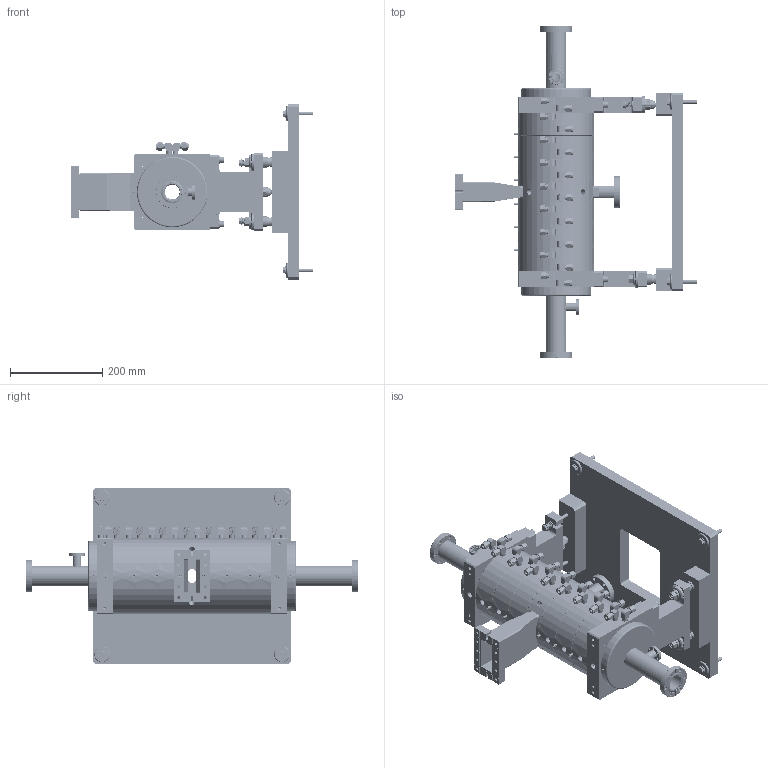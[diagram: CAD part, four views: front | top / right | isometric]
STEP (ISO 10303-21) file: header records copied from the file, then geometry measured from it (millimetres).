
FILE_DESCRIPTION((''),'2;1');
FILE_NAME('256-14900_ASM','2019-07-24T',('grs17657'),(''),'PRO/ENGINEER BY PARAMETRIC TECHNOLOGY CORPORATION, 2016010','PRO/ENGINEER BY PARAMETRIC TECHNOLOGY CORPORATION, 2016010','');
FILE_SCHEMA(('AUTOMOTIVE_DESIGN { 1 0 10303 214 1 1 1 1 }'));
Products named in the file (46): 256-14828; 256-14829; 256-14831; 256-14832_AF0; 256-10616; 256-14832_AF1; 256-14937; 256-14837; 256-14836; 256-14834; 256-10453_AF0; 048-037-04-B_AF0; 048-037-05-03; 048-037-05-02_AF0; 048-037-05-B_AF0_ASM; 256-10455-01_AF0; 256-10455-02_AF0; 256-10455_ASM; 256-10615; 048-037-02-03; 048-037-02-02; 048-037-02_ASM; 256-14833; 256-14835; 256-15129; 256-14830_ASM; 256-14894; 256-14897; WAS-080; SHS-080-035; 256-14896; 256-10293; 256-10291; 256-10292; 256-10116; 256-10118; SHS-060-070; 256-10289; 256-13947; 256-14901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
Assembly tree (134 placements, depth 4):
  256-14900_ASM
    256-14830_ASM
      256-14828
      256-14829  x6
      256-14831  x2
      256-14832_AF0
      256-10616  x2
      256-14832_AF1
      256-14937  x20
      256-14837
      256-14836  x6
      256-14834  x2
      256-10453_AF0
      048-037-04-B_AF0
      048-037-05-B_AF0_ASM
        048-037-05-03
        048-037-05-02_AF0
      256-10455_ASM
        256-10455-01_AF0
        256-10455-02_AF0
      256-10615  x2
      048-037-02_ASM  x2
        048-037-02-03
        048-037-02-02
      256-14833
      256-14835  x18
      256-15129
    256-14894
    256-14897
    WAS-080  x12
    SHS-080-035  x4
    256-14896
    256-10293
    256-10291
    256-10292
    256-10116  x2
    256-10118  x3
    SHS-060-070  x2
    256-10289  x4
    256-13947
    256-14901  x2
    HHS-080-080  x2
    HHS-080-060  x4
    DWL-100-025  x3
    277-10310  x6
    277-10312  x6
Bounding box: 524.6 x 720 x 380 mm (x, y, z)
Volume: 11611624.6 mm3; surface area: 2276908.4 mm2
Topology: 131 solids, 226 shells, 4544 faces, 10941 edges, 6824 vertices
Faces by surface type: cylinder 1731, plane 1423, cone 872, bspline 282, torus 202, sphere 24, revolution 10
Entity records: 82575 total; most frequent: CARTESIAN_POINT 22536, DIRECTION 8223, ORIENTED_EDGE 7560, EDGE_CURVE 3856, AXIS2_PLACEMENT_3D 3263, VERTEX_POINT 2486, PROPERTY_DEFINITION 2426, REPRESENTATION 2368
